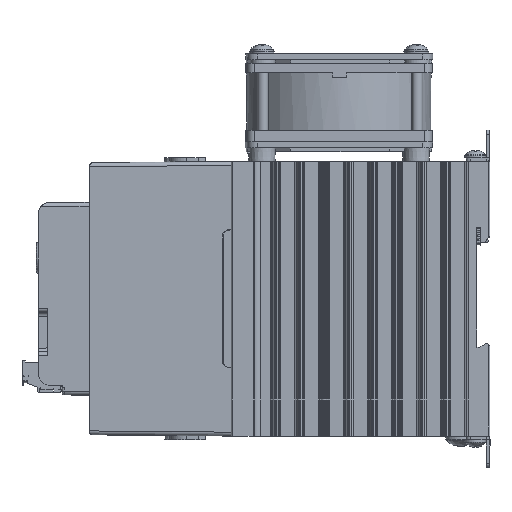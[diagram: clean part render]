
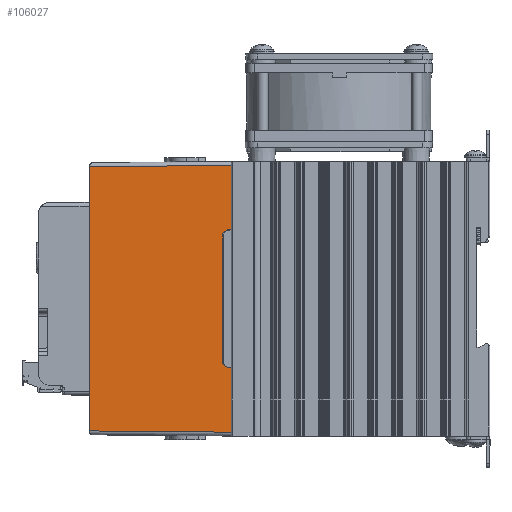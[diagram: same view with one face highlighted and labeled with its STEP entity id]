
A CAD part, left-side view. The second image highlights one B-rep face of the part: STEP entity #106027.
In plain terms, the highlighted planar face has unit normal (-1, 0.009, 0) as drawn and (1, 0, 0.009) by its records, which use the part's own axes.
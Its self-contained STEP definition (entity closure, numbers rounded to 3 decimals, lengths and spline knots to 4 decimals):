
#10826=FACE_OUTER_BOUND('',#16725,.T.);
#16725=EDGE_LOOP('',(#90102,#90103,#90104,#90105,#90106,#90107,#90108,#90109,
#90110,#90111));
#27010=LINE('',#183004,#38439);
#27140=LINE('',#183789,#38569);
#27146=LINE('',#183801,#38575);
#27150=LINE('',#183807,#38579);
#27152=LINE('',#183811,#38581);
#27154=LINE('',#183815,#38583);
#27155=LINE('',#183818,#38584);
#27500=LINE('',#184576,#38929);
#27502=LINE('',#184582,#38931);
#27503=LINE('',#184583,#38932);
#38439=VECTOR('',#137203,0.3937);
#38569=VECTOR('',#137579,0.3937);
#38575=VECTOR('',#137589,0.3937);
#38579=VECTOR('',#137597,0.3937);
#38581=VECTOR('',#137601,0.3937);
#38583=VECTOR('',#137605,0.3937);
#38584=VECTOR('',#137608,0.3937);
#38929=VECTOR('',#138333,0.3937);
#38931=VECTOR('',#138341,0.3937);
#38932=VECTOR('',#138342,0.3937);
#48454=VERTEX_POINT('',#183001);
#48455=VERTEX_POINT('',#183003);
#48558=VERTEX_POINT('',#183786);
#48559=VERTEX_POINT('',#183788);
#48562=VERTEX_POINT('',#183798);
#48563=VERTEX_POINT('',#183800);
#48564=VERTEX_POINT('',#183809);
#48565=VERTEX_POINT('',#183813);
#48566=VERTEX_POINT('',#183817);
#48766=VERTEX_POINT('',#184581);
#62428=EDGE_CURVE('',#48455,#48454,#27010,.T.);
#62616=EDGE_CURVE('',#48559,#48558,#27140,.T.);
#62622=EDGE_CURVE('',#48563,#48562,#27146,.T.);
#62626=EDGE_CURVE('',#48558,#48563,#27150,.T.);
#62628=EDGE_CURVE('',#48562,#48564,#27152,.T.);
#62630=EDGE_CURVE('',#48564,#48565,#27154,.T.);
#62631=EDGE_CURVE('',#48566,#48559,#27155,.T.);
#62997=EDGE_CURVE('',#48566,#48454,#27500,.T.);
#63000=EDGE_CURVE('',#48565,#48766,#27502,.T.);
#63001=EDGE_CURVE('',#48455,#48766,#27503,.T.);
#90102=ORIENTED_EDGE('',*,*,#62630,.T.);
#90103=ORIENTED_EDGE('',*,*,#63000,.T.);
#90104=ORIENTED_EDGE('',*,*,#63001,.F.);
#90105=ORIENTED_EDGE('',*,*,#62428,.T.);
#90106=ORIENTED_EDGE('',*,*,#62997,.F.);
#90107=ORIENTED_EDGE('',*,*,#62631,.T.);
#90108=ORIENTED_EDGE('',*,*,#62616,.T.);
#90109=ORIENTED_EDGE('',*,*,#62626,.T.);
#90110=ORIENTED_EDGE('',*,*,#62622,.T.);
#90111=ORIENTED_EDGE('',*,*,#62628,.T.);
#101092=PLANE('',#114129);
#106027=ADVANCED_FACE('',(#10826),#101092,.T.);
#114129=AXIS2_PLACEMENT_3D('',#184580,#138339,#138340);
#137203=DIRECTION('',(0.,-1.,0.));
#137579=DIRECTION('',(-0.009,0.009,1.));
#137589=DIRECTION('',(0.,1.,0.));
#137597=DIRECTION('',(-0.006,0.71,0.704));
#137601=DIRECTION('',(0.006,0.71,-0.704));
#137605=DIRECTION('',(0.009,0.009,-1.));
#137608=DIRECTION('',(0.,1.,0.));
#138333=DIRECTION('',(-0.009,0.009,1.));
#138339=DIRECTION('center_axis',(1.,0.,
0.009));
#138340=DIRECTION('ref_axis',(0.,1.,0.));
#138341=DIRECTION('',(0.,1.,0.));
#138342=DIRECTION('',(0.009,0.009,-1.));
#183001=CARTESIAN_POINT('',(1.3842,0.0658,1.811));
#183003=CARTESIAN_POINT('',(1.3842,3.4342,1.811));
#183004=CARTESIAN_POINT('',(1.3842,0.,1.811));
#183786=CARTESIAN_POINT('',(1.3995,0.8705,0.0521));
#183788=CARTESIAN_POINT('',(1.4,0.87,0.));
#183789=CARTESIAN_POINT('',(1.3996,0.8704,0.0436));
#183798=CARTESIAN_POINT('',(1.3991,2.5762,0.105));
#183800=CARTESIAN_POINT('',(1.3991,0.9238,0.105));
#183801=CARTESIAN_POINT('',(1.3991,3.0381,0.105));
#183807=CARTESIAN_POINT('',(1.3937,1.5503,0.726));
#183809=CARTESIAN_POINT('',(1.3995,2.6295,0.0521));
#183811=CARTESIAN_POINT('',(1.4015,2.859,-0.1754));
#183813=CARTESIAN_POINT('',(1.4,2.63,0.));
#183815=CARTESIAN_POINT('',(1.4,2.63,0.0023));
#183817=CARTESIAN_POINT('',(1.4,0.05,0.));
#183818=CARTESIAN_POINT('',(1.4,0.,0.));
#184576=CARTESIAN_POINT('',(1.3999,0.0501,0.0148));
#184580=CARTESIAN_POINT('Origin',(1.4,3.5,0.));
#184581=CARTESIAN_POINT('',(1.4,3.45,0.));
#184582=CARTESIAN_POINT('',(1.4,0.,0.));
#184583=CARTESIAN_POINT('',(1.4,3.45,0.0057));
